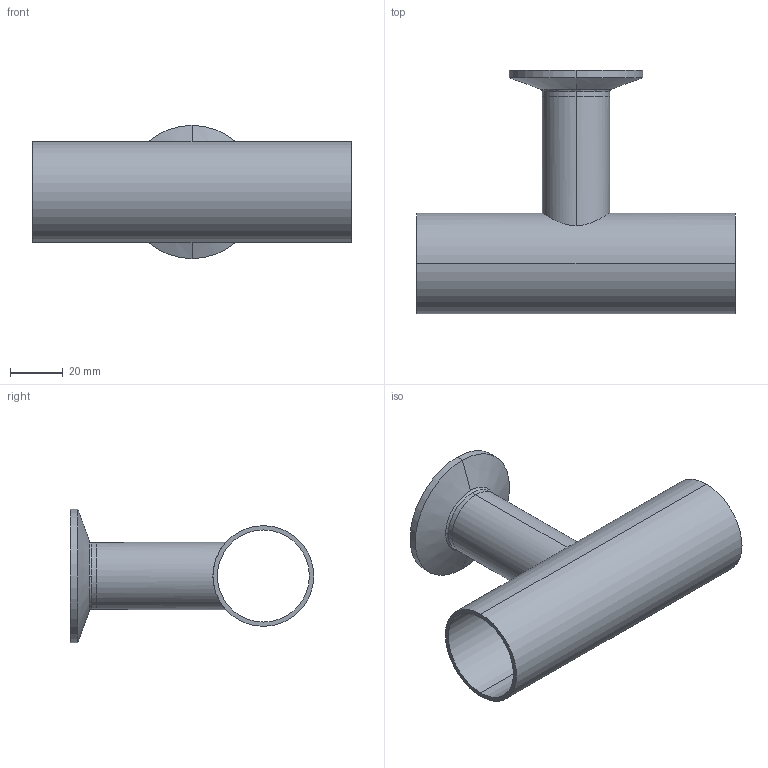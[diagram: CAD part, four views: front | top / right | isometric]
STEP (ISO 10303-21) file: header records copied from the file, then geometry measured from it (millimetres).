
FILE_DESCRIPTION (( 'STEP AP214' ), '1' );
FILE_NAME ('TE7RWWC6L1.5x1.0-...STEP', '2016-05-23T07:59:29', ( 'eran' ), ( '' ), 'SwSTEP 2.0', 'SolidWorks 2016', '' );
FILE_SCHEMA (( 'AUTOMOTIVE_DESIGN' ));
Length unit declared in the file: millimetre
Products named in the file (1): TE7RWWC6L1.5x1.0-..
Bounding box: 120.6 x 92.05 x 50.39 mm (x, y, z)
Volume: 36082.7 mm3; surface area: 38890.8 mm2
Topology: 2 solids, 2 shells, 36 faces, 88 edges, 58 vertices
Faces by surface type: cylinder 14, bspline 10, plane 6, cone 6
Entity records: 1837 total; most frequent: CARTESIAN_POINT 933, DIRECTION 190, ORIENTED_EDGE 176, EDGE_CURVE 88, AXIS2_PLACEMENT_3D 85, VERTEX_POINT 58, CIRCLE 58, EDGE_LOOP 44
